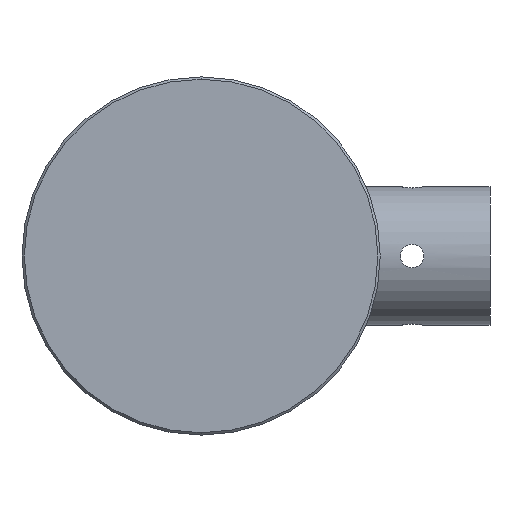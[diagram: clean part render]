
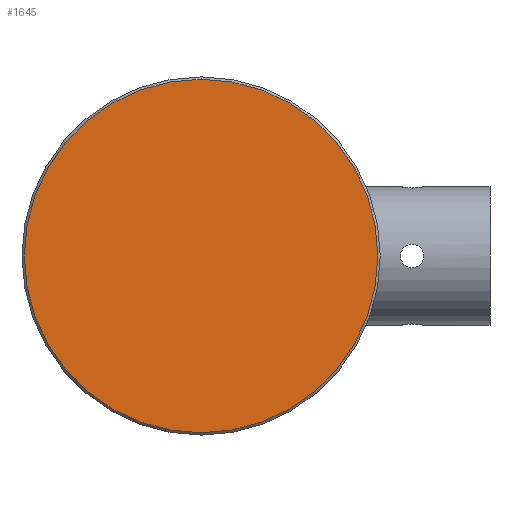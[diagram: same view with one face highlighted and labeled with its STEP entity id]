
A CAD part, left-side view. The second image highlights one B-rep face of the part: STEP entity #1645.
In plain terms, the highlighted planar face has unit normal (-1, 0, 0).
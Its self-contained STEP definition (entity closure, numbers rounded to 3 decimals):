
#65 = AXIS2_PLACEMENT_3D ( 'NONE', #570, #1853, #599 ) ;
#253 = PLANE ( 'NONE',  #65 ) ;
#265 = AXIS2_PLACEMENT_3D ( 'NONE', #444, #602, #1072 ) ;
#316 = DIRECTION ( 'NONE',  ( -1., 0., 0. ) ) ;
#372 = EDGE_CURVE ( 'NONE', #1813, #880, #517, .T. ) ;
#378 = ORIENTED_EDGE ( 'NONE', *, *, #372, .T. ) ;
#415 = ORIENTED_EDGE ( 'NONE', *, *, #1788, .T. ) ;
#444 = CARTESIAN_POINT ( 'NONE',  ( 0., 0., 0. ) ) ;
#517 = CIRCLE ( 'NONE', #265, 22.7 ) ;
#570 = CARTESIAN_POINT ( 'NONE',  ( 0., 0., 0. ) ) ;
#599 = DIRECTION ( 'NONE',  ( 0., 0., -1. ) ) ;
#602 = DIRECTION ( 'NONE',  ( -1., 0., 0. ) ) ;
#772 = CARTESIAN_POINT ( 'NONE',  ( 0., 0., 0. ) ) ;
#880 = VERTEX_POINT ( 'NONE', #1586 ) ;
#1072 = DIRECTION ( 'NONE',  ( 0., 0., 1. ) ) ;
#1118 = CARTESIAN_POINT ( 'NONE',  ( 0., 0., 22.7 ) ) ;
#1464 = AXIS2_PLACEMENT_3D ( 'NONE', #772, #316, #1597 ) ;
#1586 = CARTESIAN_POINT ( 'NONE',  ( 0., 0., -22.7 ) ) ;
#1597 = DIRECTION ( 'NONE',  ( 0., 0., 1. ) ) ;
#1645 = ADVANCED_FACE ( 'NONE', ( #1906 ), #253, .F. ) ;
#1741 = EDGE_LOOP ( 'NONE', ( #415, #378 ) ) ;
#1788 = EDGE_CURVE ( 'NONE', #880, #1813, #1849, .T. ) ;
#1813 = VERTEX_POINT ( 'NONE', #1118 ) ;
#1849 = CIRCLE ( 'NONE', #1464, 22.7 ) ;
#1853 = DIRECTION ( 'NONE',  ( 1., 0., 0. ) ) ;
#1906 = FACE_OUTER_BOUND ( 'NONE', #1741, .T. ) ;
